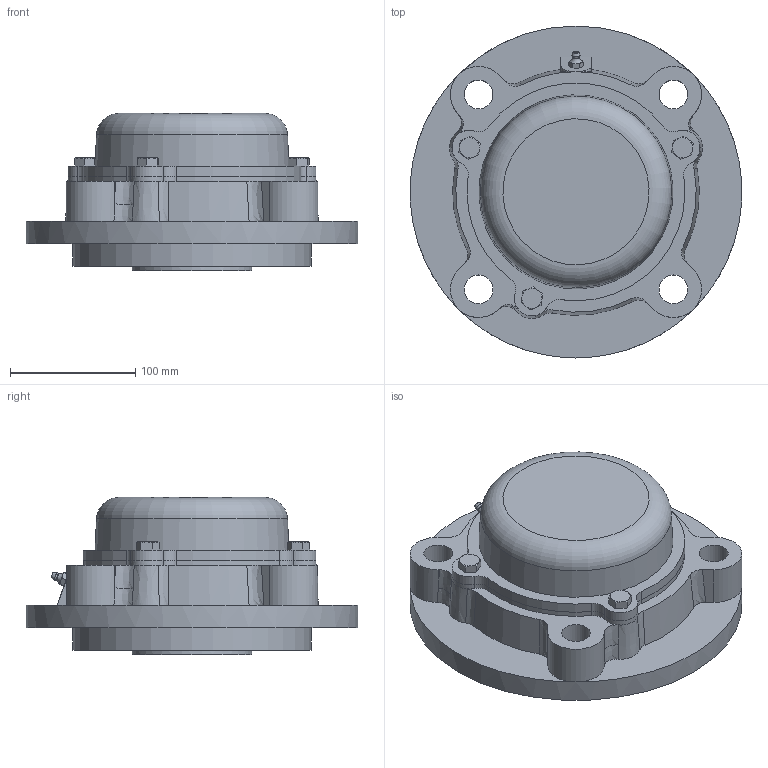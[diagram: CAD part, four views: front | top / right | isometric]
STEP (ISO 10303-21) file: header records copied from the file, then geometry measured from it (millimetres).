
FILE_DESCRIPTION((''),'2;1');
FILE_NAME('\\Ts-tgl068\j-cad-d-base\00.3DCADデータ作成フォルダ\02.フランジ形\CUKFC200\CUKFC218CE+H.stp','2014-05-22T08:58:43',('btec_1106_2'),(''),'Autodesk Inventor 2012','Autodesk Inventor 2012','');
FILE_SCHEMA(('AUTOMOTIVE_DESIGN { 1 0 10303 214 1 1 1 1 }'));
Length unit declared in the file: millimetre
Products named in the file (7): CUKFC200CE+H; CFC218; UK218; G1; 218CE; M10X1
Assembly tree (8 placements, depth 3):
  CUKFC200CE+H
    CFC218
    UK218
    G1
    218CE
      218CE
      M10X1  x3
Bounding box: 265 x 265 x 125.5 mm (x, y, z)
Volume: 2291483.3 mm3; surface area: 363542.6 mm2
Topology: 7 solids, 7 shells, 320 faces, 795 edges, 504 vertices
Faces by surface type: plane 126, cylinder 90, cone 79, bspline 17, sphere 4, torus 4
Full cylindrical faces by diameter (mm): 8.376 x3, 8.566 x1, 9.728 x1, 10 x3, 12 x3, 23 x4, 80 x1, 90 x1, 111.5 x2, 157 x1, 162 x1, 190 x1, 265 x1
Entity records: 9166 total; most frequent: CARTESIAN_POINT 2561, ORIENTED_EDGE 1336, DIRECTION 1329, EDGE_CURVE 668, AXIS2_PLACEMENT_3D 554, VERTEX_POINT 440, EDGE_LOOP 358, FACE_OUTER_BOUND 286
